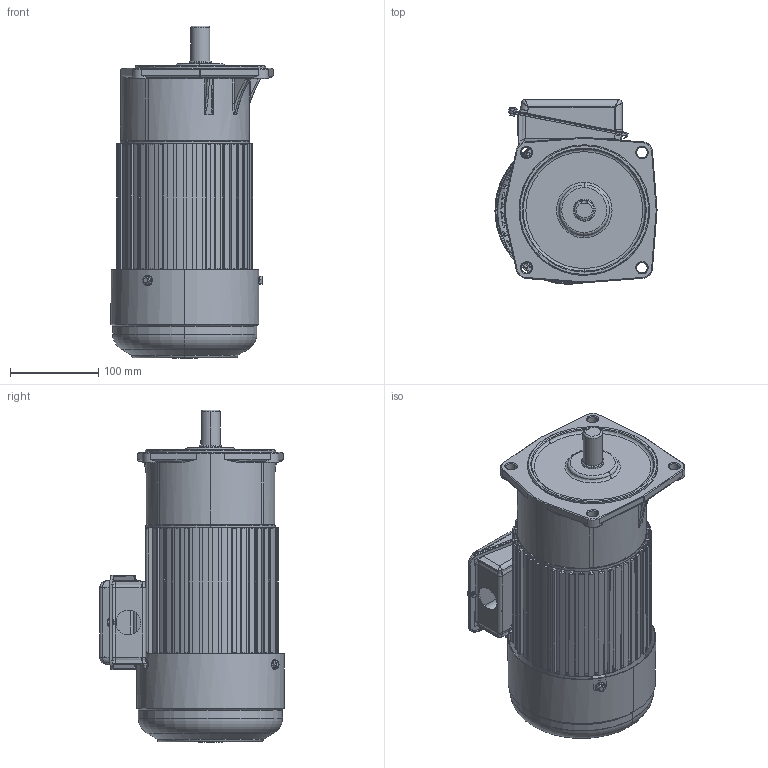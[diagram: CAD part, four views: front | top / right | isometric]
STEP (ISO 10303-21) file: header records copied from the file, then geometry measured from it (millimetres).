
FILE_DESCRIPTION (( 'STEP AP203' ), '1' );
FILE_NAME ('单相750W2#立式.STEP', '2015-10-31T05:54:29', ( '微软中国' ), ( '微软用户' ), 'SwSTEP 2.0', 'SolidWorks 2009', '' );
FILE_SCHEMA (( 'CONFIG_CONTROL_DESIGN' ));
Length unit declared in the file: millimetre
Products named in the file (11): 等眈750W; 等眈諉盄碟裔; Cross recessed pan head screws GB_GB_CROSS_SCREWS_TYPE1 M5X6-6  H type-N; 等眈諉盄碟釱; 等眈750W2#蕾宒; 2#蕾宒熬厒ん; 鞠褒蹟邡_GB_FASTENER_BOLT_HFBB M5X10-N; 棠憤迖殤400W; 等眈 瑞欶400W; 等眈諉盄碟窒璃; 750W儂褲
Assembly tree (12 placements, depth 4):
  等眈750W2#蕾宒
    2#蕾宒熬厒ん
    等眈750W
      棠憤迖殤400W
      鞠褒蹟邡_GB_FASTENER_BOLT_HFBB M5X10-N  x3
      等眈 瑞欶400W
      750W儂褲
      等眈諉盄碟窒璃
        等眈諉盄碟裔
        Cross recessed pan head screws GB_GB_CROSS_SCREWS_TYPE1 M5X6-6  H type-N
        等眈諉盄碟釱
Bounding box: 183.79 x 209.39 x 376.5 mm (x, y, z)
Volume: 2238540.2 mm3; surface area: 604596.7 mm2
Topology: 10 solids, 10 shells, 1418 faces, 3900 edges, 2518 vertices
Faces by surface type: plane 704, cylinder 442, bspline 154, torus 86, cone 30, sphere 2
Entity records: 53765 total; most frequent: CARTESIAN_POINT 17933, ORIENTED_EDGE 7574, DIRECTION 6736, EDGE_CURVE 3787, VERTEX_POINT 2464, AXIS2_PLACEMENT_3D 2255, VECTOR 2226, LINE 2226
